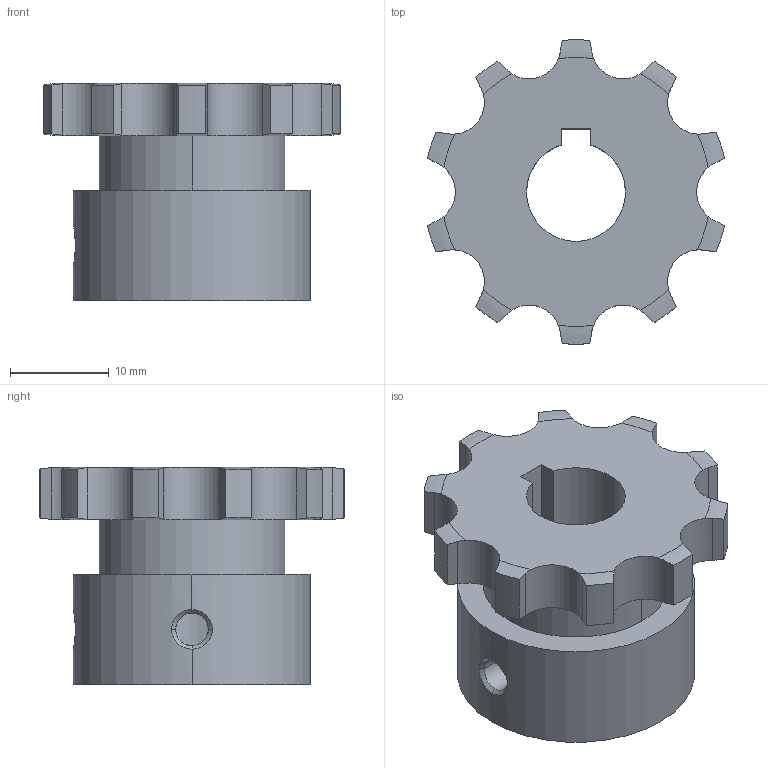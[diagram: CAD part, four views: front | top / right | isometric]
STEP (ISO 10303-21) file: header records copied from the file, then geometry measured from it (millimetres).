
FILE_DESCRIPTION((''),'2;1');
FILE_NAME('510-101-1010_PRT','2021-02-13T',('Brieden'),('Brieden'),'PRO/ENGINEER BY PARAMETRIC TECHNOLOGY CORPORATION, 2010160','PRO/ENGINEER BY PARAMETRIC TECHNOLOGY CORPORATION, 2010160','');
FILE_SCHEMA(('AUTOMOTIVE_DESIGN { 1 0 10303 214 1 1 1 1 }'));
Length unit declared in the file: millimetre
Products named in the file (1): 510-101-1010_PRT
Bounding box: 30.05 x 30.81 x 22 mm (x, y, z)
Volume: 7783.1 mm3; surface area: 4021.4 mm2
Topology: 1 solids, 1 shells, 85 faces, 243 edges, 160 vertices
Faces by surface type: cylinder 49, torus 20, plane 10, bspline 6
Entity records: 4188 total; most frequent: CARTESIAN_POINT 1301, ORIENTED_EDGE 486, DIRECTION 375, PRESENTATION_STYLE_ASSIGNMENT 244, STYLED_ITEM 244, CURVE_STYLE 243, EDGE_CURVE 243, VERTEX_POINT 160
